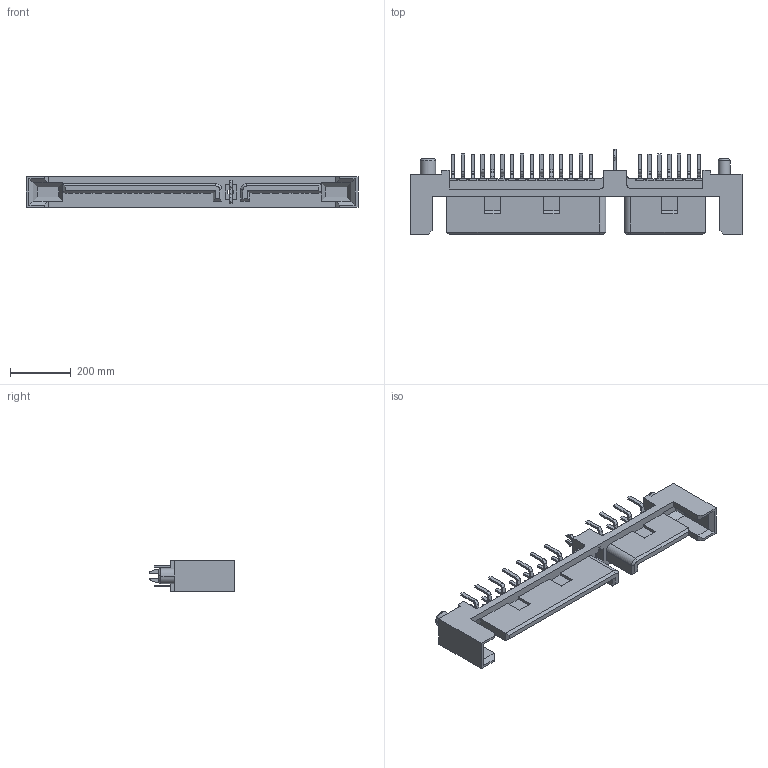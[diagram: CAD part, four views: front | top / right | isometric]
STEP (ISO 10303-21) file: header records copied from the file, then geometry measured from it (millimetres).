
FILE_DESCRIPTION((''),'2;1');
FILE_NAME('WATH-22DLBGU4_ASM','2012-07-20T',('jarry'),(''),'PRO/ENGINEER BY PARAMETRIC TECHNOLOGY CORPORATION, 2008230','PRO/ENGINEER BY PARAMETRIC TECHNOLOGY CORPORATION, 2008230','');
FILE_SCHEMA(('CONFIG_CONTROL_DESIGN'));
Products named in the file (3): _WATH-22DLBGU4_AF0; PRT0001; WATH-22DLBGU4_ASM
Assembly tree (2 placements, depth 2):
  WATH-22DLBGU4_ASM
    _WATH-22DLBGU4_AF0
    PRT0001
Bounding box: 1089.66 x 278.89 x 101.6 mm (x, y, z)
Volume: 9473144 mm3; surface area: 1409703.8 mm2
Topology: 2 solids, 71 shells, 2737 faces, 7166 edges, 4504 vertices
Faces by surface type: plane 2015, cylinder 716, torus 4, cone 2
Entity records: 82562 total; most frequent: CARTESIAN_POINT 14464, ORIENTED_EDGE 14116, DIRECTION 14094, EDGE_CURVE 7166, VECTOR 5686, LINE 5686, VERTEX_POINT 4504, AXIS2_PLACEMENT_3D 4204
